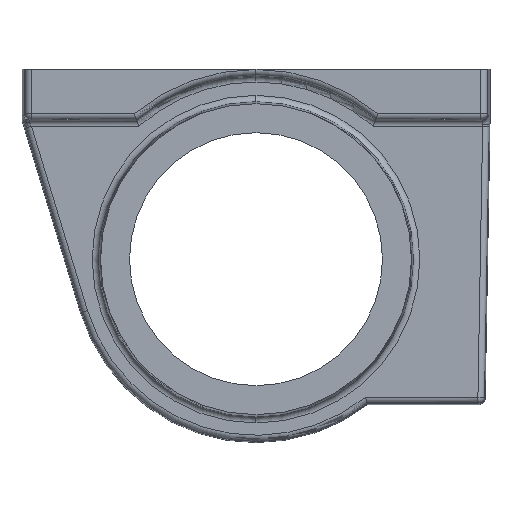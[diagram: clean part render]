
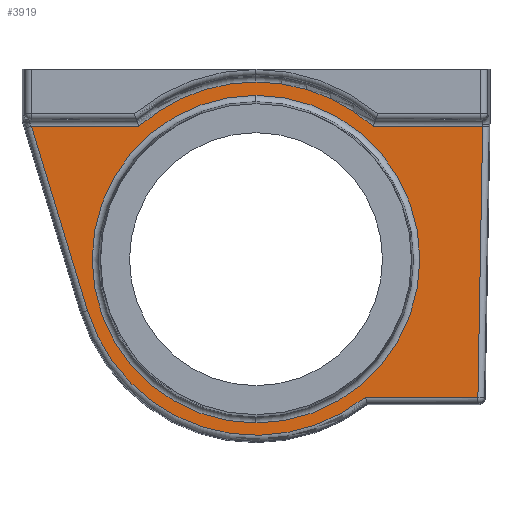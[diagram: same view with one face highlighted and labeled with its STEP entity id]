
A CAD part, front view. The second image highlights one B-rep face of the part: STEP entity #3919.
In plain terms, the highlighted planar face has unit normal (0, -1, 0).
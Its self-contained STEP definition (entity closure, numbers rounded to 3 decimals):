
#65 = DIRECTION ( 'NONE',  ( 0., 1., 0. ) ) ;
#66 = DIRECTION ( 'NONE',  ( 0., -1., 0. ) ) ;
#76 = DIRECTION ( 'NONE',  ( -1., 0., 0. ) ) ;
#130 = CARTESIAN_POINT ( 'NONE',  ( 18.894, -10., -7. ) ) ;
#151 = ORIENTED_EDGE ( 'NONE', *, *, #3578, .T. ) ;
#164 = EDGE_CURVE ( 'NONE', #1953, #438, #2084, .T. ) ;
#178 = ORIENTED_EDGE ( 'NONE', *, *, #1432, .T. ) ;
#248 = CARTESIAN_POINT ( 'NONE',  ( 35.833, -10., -6.554 ) ) ;
#249 = ORIENTED_EDGE ( 'NONE', *, *, #1440, .T. ) ;
#286 = EDGE_CURVE ( 'NONE', #501, #1466, #3042, .T. ) ;
#354 = DIRECTION ( 'NONE',  ( -1., 0., 0. ) ) ;
#381 = DIRECTION ( 'NONE',  ( 0., 1., 0. ) ) ;
#438 = VERTEX_POINT ( 'NONE', #3547 ) ;
#501 = VERTEX_POINT ( 'NONE', #2646 ) ;
#504 = CARTESIAN_POINT ( 'NONE',  ( -26.639, -10., -36.1 ) ) ;
#545 = DIRECTION ( 'NONE',  ( 0., 0., 1. ) ) ;
#584 = AXIS2_PLACEMENT_3D ( 'NONE', #1001, #381, #941 ) ;
#602 = CARTESIAN_POINT ( 'NONE',  ( 0., -10., -2.104 ) ) ;
#642 = AXIS2_PLACEMENT_3D ( 'NONE', #3397, #2474, #1195 ) ;
#683 = DIRECTION ( 'NONE',  ( 0., 0., 1. ) ) ;
#705 = EDGE_CURVE ( 'NONE', #1687, #864, #3121, .T. ) ;
#725 = VERTEX_POINT ( 'NONE', #1859 ) ;
#758 = ORIENTED_EDGE ( 'NONE', *, *, #164, .T. ) ;
#845 = VERTEX_POINT ( 'NONE', #602 ) ;
#864 = VERTEX_POINT ( 'NONE', #1655 ) ;
#941 = DIRECTION ( 'NONE',  ( 0., 0., 1. ) ) ;
#970 = VERTEX_POINT ( 'NONE', #1586 ) ;
#1001 = CARTESIAN_POINT ( 'NONE',  ( 0., -10., -28. ) ) ;
#1165 = ORIENTED_EDGE ( 'NONE', *, *, #2867, .T. ) ;
#1195 = DIRECTION ( 'NONE',  ( 0., 0., 1. ) ) ;
#1246 = DIRECTION ( 'NONE',  ( 0.291, 0., -0.957 ) ) ;
#1266 = CARTESIAN_POINT ( 'NONE',  ( -26.639, -10., -36.1 ) ) ;
#1289 = VECTOR ( 'NONE', #76, 1000. ) ;
#1303 = ORIENTED_EDGE ( 'NONE', *, *, #286, .T. ) ;
#1333 = PLANE ( 'NONE',  #2561 ) ;
#1343 = CIRCLE ( 'NONE', #3583, 28. ) ;
#1370 = DIRECTION ( 'NONE',  ( 0., 0., 1. ) ) ;
#1432 = EDGE_CURVE ( 'NONE', #725, #1687, #1343, .T. ) ;
#1440 = EDGE_CURVE ( 'NONE', #438, #1585, #2676, .T. ) ;
#1453 = CARTESIAN_POINT ( 'NONE',  ( 36.043, -10., -49.843 ) ) ;
#1466 = VERTEX_POINT ( 'NONE', #504 ) ;
#1585 = VERTEX_POINT ( 'NONE', #3592 ) ;
#1586 = CARTESIAN_POINT ( 'NONE',  ( 0., -10., -53.896 ) ) ;
#1594 = LINE ( 'NONE', #130, #1289 ) ;
#1655 = CARTESIAN_POINT ( 'NONE',  ( -18.52, -10., -7. ) ) ;
#1668 = CARTESIAN_POINT ( 'NONE',  ( 17.266, -10., -49.843 ) ) ;
#1687 = VERTEX_POINT ( 'NONE', #3265 ) ;
#1689 = ORIENTED_EDGE ( 'NONE', *, *, #1960, .T. ) ;
#1727 = VECTOR ( 'NONE', #1246, 1000. ) ;
#1773 = EDGE_CURVE ( 'NONE', #864, #501, #3644, .T. ) ;
#1859 = CARTESIAN_POINT ( 'NONE',  ( 18.52, -10., -7. ) ) ;
#1895 = DIRECTION ( 'NONE',  ( 0., 0., 1. ) ) ;
#1951 = FACE_OUTER_BOUND ( 'NONE', #2135, .T. ) ;
#1953 = VERTEX_POINT ( 'NONE', #1668 ) ;
#1960 = EDGE_CURVE ( 'NONE', #1585, #725, #1594, .T. ) ;
#2041 = CARTESIAN_POINT ( 'NONE',  ( 0., -10., -28. ) ) ;
#2080 = ORIENTED_EDGE ( 'NONE', *, *, #1773, .T. ) ;
#2084 = LINE ( 'NONE', #1453, #3051 ) ;
#2135 = EDGE_LOOP ( 'NONE', ( #178, #2462, #2080, #1303, #1165, #758, #249, #1689 ) ) ;
#2240 = CIRCLE ( 'NONE', #3011, 25.896 ) ;
#2427 = VECTOR ( 'NONE', #354, 1000. ) ;
#2462 = ORIENTED_EDGE ( 'NONE', *, *, #705, .T. ) ;
#2474 = DIRECTION ( 'NONE',  ( 0., -1., 0. ) ) ;
#2516 = CARTESIAN_POINT ( 'NONE',  ( 0., -10., -28. ) ) ;
#2539 = CARTESIAN_POINT ( 'NONE',  ( 0., -10., -28. ) ) ;
#2561 = AXIS2_PLACEMENT_3D ( 'NONE', #2516, #65, #683 ) ;
#2646 = CARTESIAN_POINT ( 'NONE',  ( -35.486, -10., -7. ) ) ;
#2676 = LINE ( 'NONE', #248, #3831 ) ;
#2768 = CARTESIAN_POINT ( 'NONE',  ( 0., -10., -28. ) ) ;
#2789 = ORIENTED_EDGE ( 'NONE', *, *, #2894, .T. ) ;
#2867 = EDGE_CURVE ( 'NONE', #1466, #1953, #3198, .T. ) ;
#2891 = AXIS2_PLACEMENT_3D ( 'NONE', #2768, #66, #1895 ) ;
#2894 = EDGE_CURVE ( 'NONE', #970, #845, #3125, .T. ) ;
#3011 = AXIS2_PLACEMENT_3D ( 'NONE', #2539, #3504, #1370 ) ;
#3042 = LINE ( 'NONE', #1266, #1727 ) ;
#3051 = VECTOR ( 'NONE', #3296, 1000. ) ;
#3092 = FACE_BOUND ( 'NONE', #3637, .T. ) ;
#3121 = CIRCLE ( 'NONE', #642, 28. ) ;
#3125 = CIRCLE ( 'NONE', #584, 25.896 ) ;
#3191 = DIRECTION ( 'NONE',  ( 0.017, 0., 1. ) ) ;
#3198 = CIRCLE ( 'NONE', #2891, 27.843 ) ;
#3250 = DIRECTION ( 'NONE',  ( 0., -1., 0. ) ) ;
#3265 = CARTESIAN_POINT ( 'NONE',  ( 0., -10., 0. ) ) ;
#3296 = DIRECTION ( 'NONE',  ( 1., 0., 0. ) ) ;
#3382 = CARTESIAN_POINT ( 'NONE',  ( -36.815, -10., -7. ) ) ;
#3397 = CARTESIAN_POINT ( 'NONE',  ( 0., -10., -28. ) ) ;
#3504 = DIRECTION ( 'NONE',  ( 0., 1., 0. ) ) ;
#3547 = CARTESIAN_POINT ( 'NONE',  ( 35.077, -10., -49.843 ) ) ;
#3578 = EDGE_CURVE ( 'NONE', #845, #970, #2240, .T. ) ;
#3583 = AXIS2_PLACEMENT_3D ( 'NONE', #2041, #3250, #545 ) ;
#3592 = CARTESIAN_POINT ( 'NONE',  ( 35.825, -10., -7. ) ) ;
#3637 = EDGE_LOOP ( 'NONE', ( #151, #2789 ) ) ;
#3644 = LINE ( 'NONE', #3382, #2427 ) ;
#3831 = VECTOR ( 'NONE', #3191, 1000. ) ;
#3919 = ADVANCED_FACE ( 'NONE', ( #1951, #3092 ), #1333, .F. ) ;
